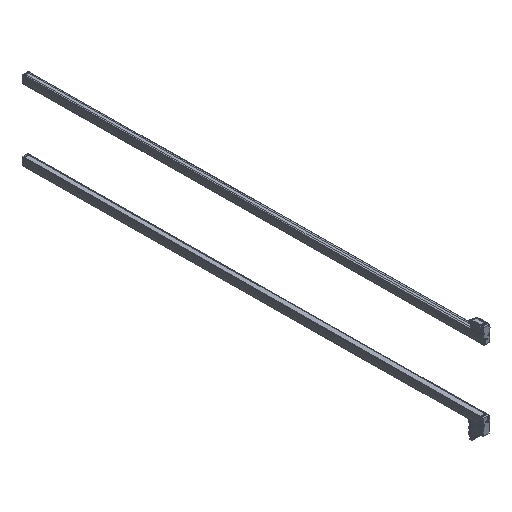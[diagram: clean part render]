
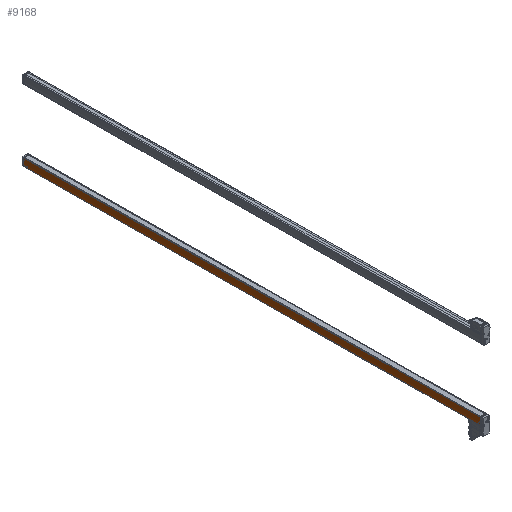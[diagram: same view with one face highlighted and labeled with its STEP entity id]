
A CAD part, isometric view. The second image highlights one B-rep face of the part: STEP entity #9168.
In plain terms, the highlighted cylindrical face has radius 250 mm (diameter 500 mm), a partial arc.
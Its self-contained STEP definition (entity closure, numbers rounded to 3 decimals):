
#4398=FACE_OUTER_BOUND('',#13619,.T.);
#7424=CYLINDRICAL_SURFACE('',#48278,250.);
#9168=ADVANCED_FACE('',(#4398),#7424,.T.);
#13619=EDGE_LOOP('',(#28241,#28242,#28243,#28244));
#16586=LINE('',#80913,#19637);
#16587=LINE('',#80917,#19638);
#19637=VECTOR('',#56392,1.);
#19638=VECTOR('',#56397,1.);
#28241=ORIENTED_EDGE('',*,*,#41518,.T.);
#28242=ORIENTED_EDGE('',*,*,#41642,.F.);
#28243=ORIENTED_EDGE('',*,*,#41643,.T.);
#28244=ORIENTED_EDGE('',*,*,#41640,.F.);
#36069=VERTEX_POINT('',#80668);
#36070=VERTEX_POINT('',#80670);
#36151=VERTEX_POINT('',#80914);
#36152=VERTEX_POINT('',#80918);
#41518=EDGE_CURVE('',#36070,#36069,#45258,.T.);
#41640=EDGE_CURVE('',#36070,#36151,#16586,.T.);
#41642=EDGE_CURVE('',#36152,#36069,#16587,.T.);
#41643=EDGE_CURVE('',#36152,#36151,#45305,.T.);
#45258=CIRCLE('',#48188,250.);
#45305=CIRCLE('',#48277,250.);
#48188=AXIS2_PLACEMENT_3D('',#80669,#56142,#56143);
#48277=AXIS2_PLACEMENT_3D('',#80919,#56398,#56399);
#48278=AXIS2_PLACEMENT_3D('',#80920,#56400,#56401);
#56142=DIRECTION('',(0.,0.,1.));
#56143=DIRECTION('',(-1.,0.,0.));
#56392=DIRECTION('',(0.,0.,1.));
#56397=DIRECTION('',(0.,0.,-1.));
#56398=DIRECTION('',(0.,0.,-1.));
#56399=DIRECTION('',(-0.998,0.067,0.));
#56400=DIRECTION('',(0.,0.,-1.));
#56401=DIRECTION('',(0.998,-0.067,0.));
#80668=CARTESIAN_POINT('',(13.731,16.86,-2080.));
#80669=CARTESIAN_POINT('',(-235.7,0.,-2080.));
#80670=CARTESIAN_POINT('',(13.793,-15.907,-2080.));
#80913=CARTESIAN_POINT('',(13.793,-15.907,-452.));
#80914=CARTESIAN_POINT('',(13.793,-15.907,0.));
#80917=CARTESIAN_POINT('',(13.731,16.86,0.));
#80918=CARTESIAN_POINT('',(13.731,16.86,0.));
#80919=CARTESIAN_POINT('',(-235.7,0.,0.));
#80920=CARTESIAN_POINT('',(-235.7,0.,0.));
